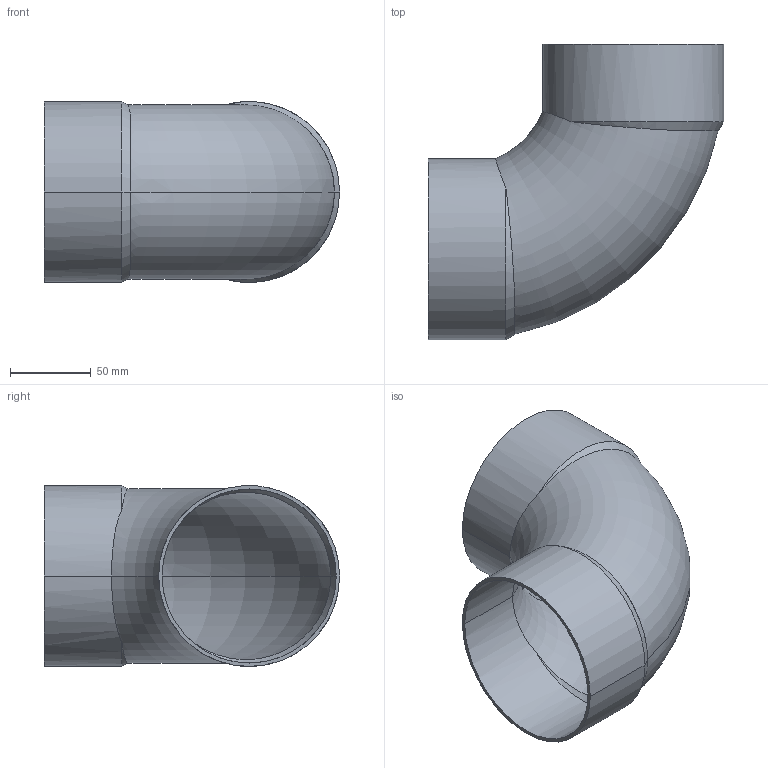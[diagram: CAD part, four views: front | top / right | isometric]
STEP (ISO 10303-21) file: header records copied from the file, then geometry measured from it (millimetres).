
FILE_DESCRIPTION((''),'2;1');
FILE_NAME('G:\SANHA-TERNAT\Technik\Deckel\UUU\Producttek\15090108\15090108(0).stp','2007-07-26T08:44:56',('vdvijverd'),(''),'Autodesk Inventor 8','Autodesk Inventor 8','');
FILE_SCHEMA(('AUTOMOTIVE_DESIGN { 1 0 10303 214 1 1 1 1 }'));
Length unit declared in the file: millimetre
Products named in the file (1): 15090108(0)
Bounding box: 183.1 x 183.1 x 112.2 mm (x, y, z)
Volume: 150723.2 mm3; surface area: 145099.1 mm2
Topology: 1 solids, 1 shells, 24 faces, 61 edges, 39 vertices
Faces by surface type: bspline 10, torus 4, cone 4, cylinder 4, plane 2
Entity records: 1033 total; most frequent: CARTESIAN_POINT 487, ORIENTED_EDGE 122, DIRECTION 92, EDGE_CURVE 61, AXIS2_PLACEMENT_3D 40, VERTEX_POINT 39, EDGE_LOOP 26, CIRCLE 25
